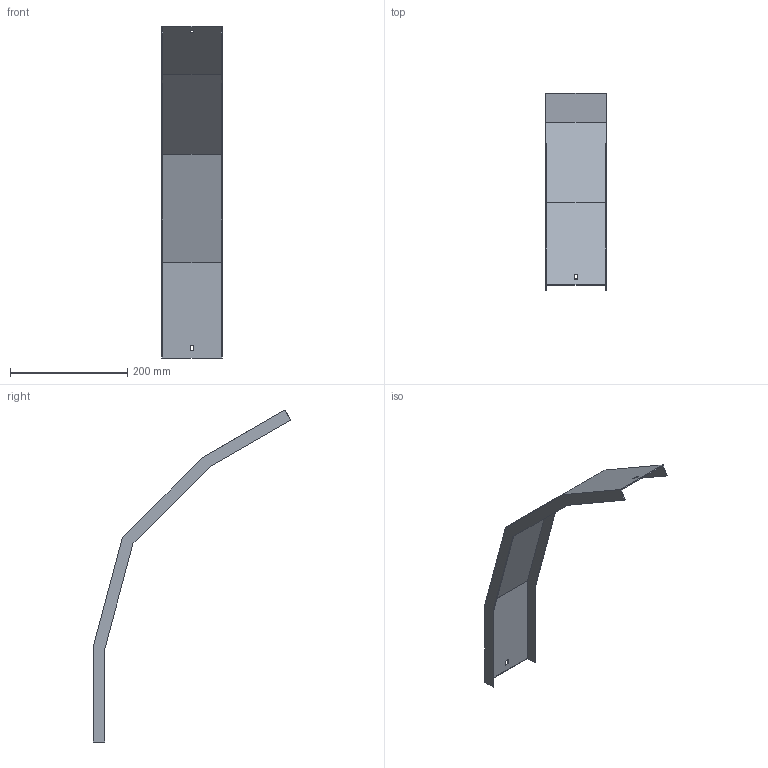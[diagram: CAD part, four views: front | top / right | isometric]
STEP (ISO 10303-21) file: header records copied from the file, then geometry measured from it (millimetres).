
FILE_DESCRIPTION (( 'STEP AP214' ), '1' );
FILE_NAME ('A2_41N3C100.step', '2025-02-21T10:39:07', ( '' ), ( '' ), 'SwSTEP 2.0', 'SolidWorks 2023', '' );
FILE_SCHEMA (( 'AUTOMOTIVE_DESIGN' ));
Length unit declared in the file: millimetre
Products named in the file (1): A2_41N3C100
Bounding box: 103 x 337.26 x 566.83 mm (x, y, z)
Volume: 148430 mm3; surface area: 200492.1 mm2
Topology: 1 solids, 1 shells, 30 faces, 84 edges, 56 vertices
Faces by surface type: plane 30
Entity records: 979 total; most frequent: CARTESIAN_POINT 171, ORIENTED_EDGE 168, DIRECTION 146, VECTOR 84, EDGE_CURVE 84, LINE 84, VERTEX_POINT 56, EDGE_LOOP 34
